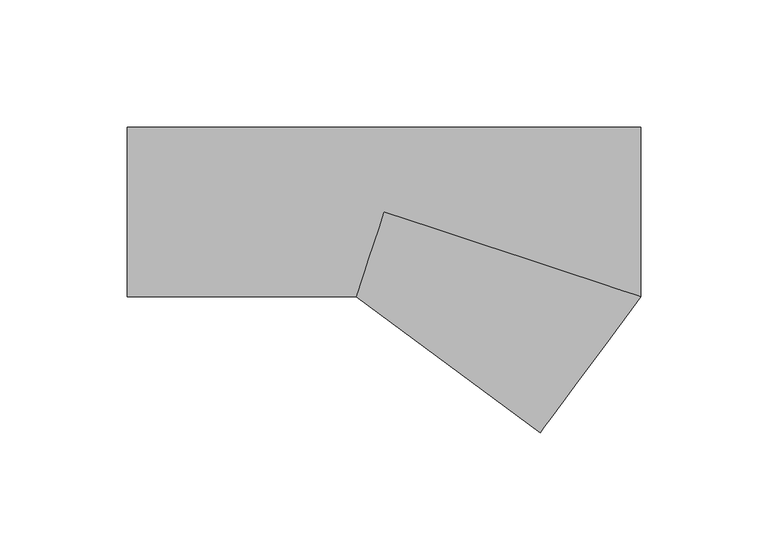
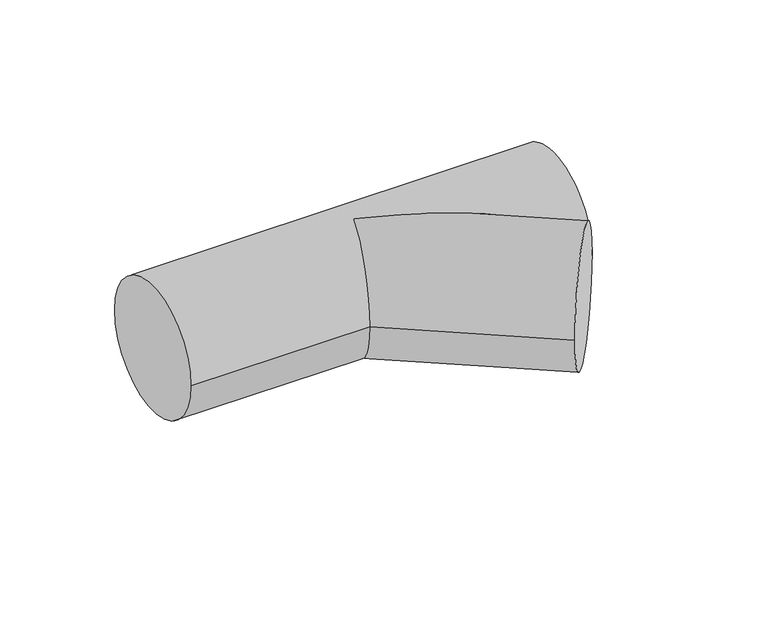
"""IFC4 building model written with IfcOpenShell, lengths in millimetres: pipe fitting geometry, M_Te - Genérica : Estándar."""

from ifc_helpers import new_model, si_unit, frame, origin, place, context, project, spatial, circle_curve, ellipse_curve, source, transform, mapped, element, save
from ifc_brep_helpers import plane_surface, cylinder_surface, advanced_brep


def pipe_fitting_f1409a02(model_context):
    return source(origin(), model_context, "Body", "AdvancedBrep", [
        advanced_brep(
        [(-101.0982284, -33.3375, 0.0), (-101.0982284, 33.3375, 0.0), (101.0982284, -33.3375, 0.0), (101.0982284, 33.3375, 0.0), (-10.9931591, -33.3375, 0.0), (0.0, 0.0, 33.3375), (0.0, 0.0, -33.3375), (61.4381285, -86.9344412, 0.0)],
        [
            (0, 1, circle_curve(frame((-101.0982284, 0.0, 0.0), z_axis=(-1.0, 0.0, 0.0), x_axis=(0.0, 1.0, 0.0)), 33.3375)),
            (1, 0, circle_curve(frame((-101.0982284, 0.0, 0.0), z_axis=(-1.0, 0.0, 0.0), x_axis=(0.0, 1.0, 0.0)), 33.3375)),
            (2, 3, circle_curve(frame((101.0982284, 0.0, 0.0), z_axis=(1.0, 0.0, 0.0), x_axis=(0.0, 1.0, 0.0)), 33.3375)),
            (3, 2, circle_curve(frame((101.0982284, 0.0, 0.0), z_axis=(1.0, 0.0, 0.0), x_axis=(0.0, 1.0, 0.0)), 33.3375)),
            (0, 4),
            (4, 5, ellipse_curve(frame((0.0, 0.0, 0.0), z_axis=(-0.949698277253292, 0.31316638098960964, 0.0), x_axis=(-0.3131663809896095, -0.949698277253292, 0.0)), 35.1032542, 33.3375)),
            (5, 2, ellipse_curve(frame((0.0, 0.0, 0.0), z_axis=(0.31316638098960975, 0.949698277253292, 0.0), x_axis=(-0.9496982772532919, 0.31316638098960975, 0.0)), 106.4529976, 33.3375)),
            (3, 1),
            (2, 6, ellipse_curve(frame((0.0, 0.0, 0.0), z_axis=(0.31316638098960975, 0.949698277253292, 0.0), x_axis=(-0.9496982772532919, 0.31316638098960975, 0.0)), 106.4529976, 33.3375)),
            (6, 4, ellipse_curve(frame((0.0, 0.0, 0.0), z_axis=(-0.949698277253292, 0.31316638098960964, 0.0), x_axis=(-0.3131663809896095, -0.949698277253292, 0.0)), 35.1032542, 33.3375)),
            (7, 2, circle_curve(frame((81.2681785, -60.1359706, 0.0), z_axis=(0.8038536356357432, -0.5948271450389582, 0.0), x_axis=(0.5948271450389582, 0.8038536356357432, 0.0)), 33.3375)),
            (2, 7, circle_curve(frame((81.2681785, -60.1359706, 0.0), z_axis=(0.8038536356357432, -0.5948271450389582, 0.0), x_axis=(0.5948271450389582, 0.8038536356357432, 0.0)), 33.3375)),
            (4, 7),
        ],
        [
            plane_surface(frame((-101.0982284, 0.0, 0.0), z_axis=(-1.0, 0.0, 0.0), x_axis=(0.0, 0.0, 1.0))),
            plane_surface(frame((101.0982284, 0.0, 0.0), z_axis=(1.0, 0.0, 0.0), x_axis=(0.0, 0.0, 1.0))),
            cylinder_surface(frame((-101.0982284, 0.0, 0.0), z_axis=(-1.0, 0.0, 0.0), x_axis=(0.0, 1.0, 0.0)), 33.3375),
            plane_surface(frame((81.2681785, -60.1359706, 0.0), z_axis=(0.8038536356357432, -0.5948271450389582, 0.0), x_axis=(0.0, 0.0, 1.0))),
            cylinder_surface(frame((0.0, 0.0, 0.0), z_axis=(-0.8038536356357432, 0.5948271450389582, 0.0), x_axis=(0.5948271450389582, 0.8038536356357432, 0.0)), 33.3375),
        ],
        [
            (0, [[1, 2]]),
            (1, [[3, 4]]),
            (2, [[-1, 5, 6, 7, -4, 8]]),
            (2, [[-2, -8, -3, 9, 10, -5]]),
            (3, [[11, 12]]),
            (4, [[-12, -7, -6, 13]]),
            (4, [[-11, -13, -10, -9]]),
        ],
    ),
    ])


if __name__ == "__main__":
    model = new_model("IFC4")
    model_context = context("Model", 3, world=origin())
    ifc_project = project(units=[si_unit("LENGTHUNIT", "METRE", prefix="MILLI")], contexts=[model_context])
    site = spatial("IfcSite", under=ifc_project)
    building = spatial("IfcBuilding", under=site)
    placement = place(None, origin())
    pipe_fitting_shape = pipe_fitting_f1409a02(model_context)
    element("IfcPipeFitting", 1, ObjectType="M_Te - Genérica : Estándar", at=placement, inside=building, context=model_context, shape_type="MappedRepresentation", body=[
        mapped(pipe_fitting_shape, transform((0.0, 0.0, 0.0), x_axis=(1.0, 0.0, 0.0), y_axis=(0.0, 1.0, 0.0), z_axis=(0.0, 0.0, 1.0))),
    ])
    save(model, "model.ifc")
